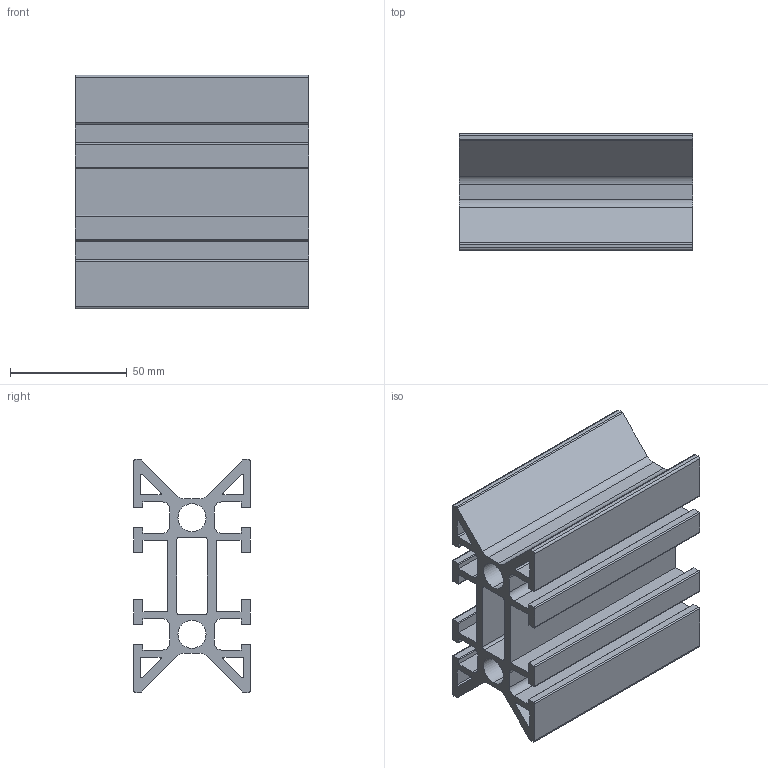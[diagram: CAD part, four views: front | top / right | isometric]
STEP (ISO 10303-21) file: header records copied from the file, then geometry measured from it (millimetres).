
FILE_DESCRIPTION (( 'STEP AP214' ), '1' );
FILE_NAME ('084.530.001.STEP', '2020-07-23T08:39:09', ( '' ), ( '' ), 'SwSTEP 2.0', 'SolidWorks 2018', '' );
FILE_SCHEMA (( 'AUTOMOTIVE_DESIGN' ));
Length unit declared in the file: millimetre
Products named in the file (1): 084.530.001
Bounding box: 100 x 50 x 100 mm (x, y, z)
Volume: 171210.6 mm3; surface area: 89354.5 mm2
Topology: 1 solids, 1 shells, 144 faces, 426 edges, 284 vertices
Faces by surface type: plane 78, cylinder 66
Entity records: 4904 total; most frequent: CARTESIAN_POINT 855, ORIENTED_EDGE 852, DIRECTION 848, EDGE_CURVE 426, VECTOR 294, LINE 294, VERTEX_POINT 284, AXIS2_PLACEMENT_3D 277
